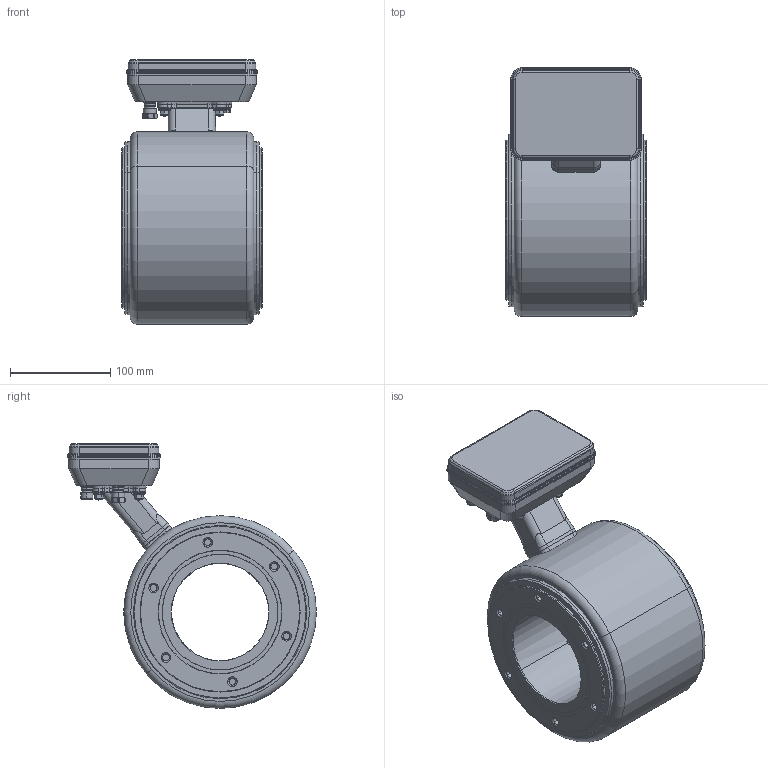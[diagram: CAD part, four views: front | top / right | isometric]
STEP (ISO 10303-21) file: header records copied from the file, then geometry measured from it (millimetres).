
FILE_DESCRIPTION (( 'STEP AP203' ), '1' );
FILE_NAME ('CAD_STP_300_0397.STEP', '2024-05-16T11:46:02', ( '' ), ( '' ), 'SwSTEP 2.0', 'SolidWorks 2022', '' );
FILE_SCHEMA (( 'CONFIG_CONTROL_DESIGN' ));
Length unit declared in the file: millimetre
Products named in the file (3): CAD_STP_300_0397; P_MZ_300_0396_P2; P_MZ_300_0389_P1
Assembly tree (2 placements, depth 2):
  CAD_STP_300_0397
    P_MZ_300_0389_P1
    P_MZ_300_0396_P2
Bounding box: 140 x 247.94 x 263.82 mm (x, y, z)
Volume: 3453953.2 mm3; surface area: 217180.3 mm2
Topology: 2 solids, 2 shells, 589 faces, 1383 edges, 848 vertices
Faces by surface type: plane 193, cylinder 189, cone 112, torus 75, sphere 16, bspline 4
Entity records: 17749 total; most frequent: CARTESIAN_POINT 3641, DIRECTION 3113, ORIENTED_EDGE 2766, EDGE_CURVE 1383, AXIS2_PLACEMENT_3D 1243, VERTEX_POINT 848, CIRCLE 653, EDGE_LOOP 641
